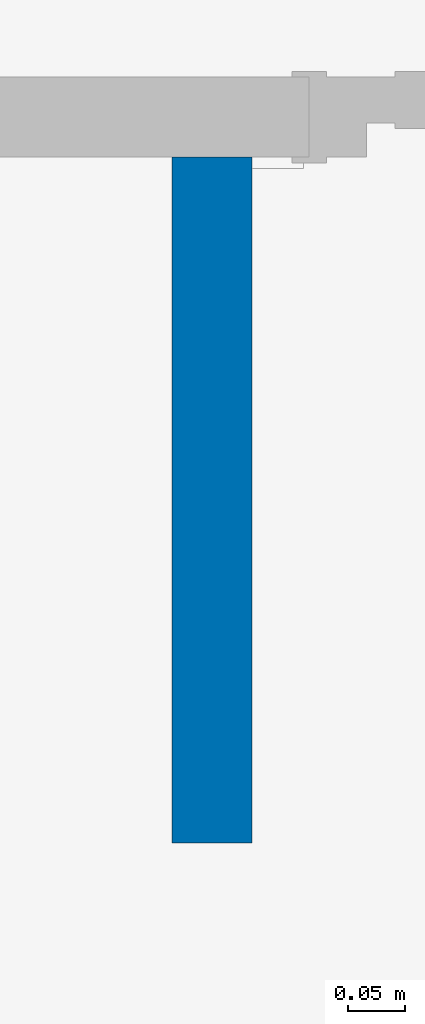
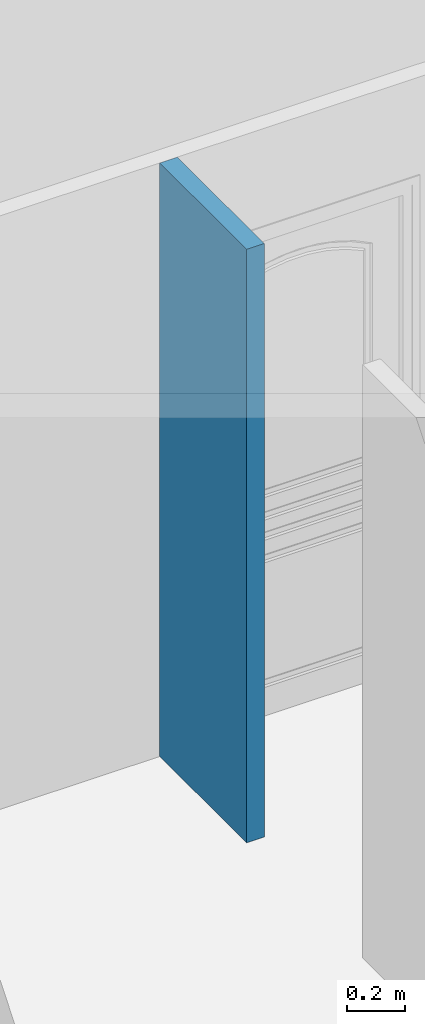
# One storey, part 4 of 23: 1 wall.
"""IFC2X3 building model written with IfcOpenShell, lengths in metres."""

from ifc_helpers import new_model, entity, si_unit, converted_unit, derived_unit, direction, frame, frame_2d, origin, place, context, subcontext, project, spatial, rectangle, extrude, material, layer, layer_set, layer_usage, type_object, element, save


model = new_model("IFC2X3")

# Units and contexts
model_context = context("Model", 3, precision=1e-05, world=origin(), true_north=direction((6.12303176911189e-17, 1.0)))
body_context = subcontext(model_context, "Body", "Model", "MODEL_VIEW")
ifc_project = project(units=[si_unit("LENGTHUNIT", "METRE"), si_unit("AREAUNIT", "SQUARE_METRE"), si_unit("VOLUMEUNIT", "CUBIC_METRE"), converted_unit("PLANEANGLEUNIT", "DEGREE", entity("IfcRatioMeasure", 0.0174532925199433), si_unit("PLANEANGLEUNIT", "RADIAN"), dimensions=[0, 0, 0, 0, 0, 0, 0]), si_unit("MASSUNIT", "GRAM", prefix="KILO"), derived_unit("MASSDENSITYUNIT", [(si_unit("MASSUNIT", "GRAM", prefix="KILO"), 1), (si_unit("LENGTHUNIT", "METRE"), -3)]), si_unit("TIMEUNIT", "SECOND"), si_unit("FREQUENCYUNIT", "HERTZ"), si_unit("THERMODYNAMICTEMPERATUREUNIT", "DEGREE_CELSIUS"), derived_unit("THERMALTRANSMITTANCEUNIT", [(si_unit("MASSUNIT", "GRAM", prefix="KILO"), 1), (si_unit("THERMODYNAMICTEMPERATUREUNIT", "KELVIN"), -1), (si_unit("TIMEUNIT", "SECOND"), -3)]), derived_unit("VOLUMETRICFLOWRATEUNIT", [(si_unit("LENGTHUNIT", "METRE"), 3), (si_unit("TIMEUNIT", "SECOND"), -1)]), si_unit("ELECTRICCURRENTUNIT", "AMPERE"), si_unit("ELECTRICVOLTAGEUNIT", "VOLT"), si_unit("POWERUNIT", "WATT"), si_unit("FORCEUNIT", "NEWTON", prefix="KILO"), si_unit("ILLUMINANCEUNIT", "LUX"), si_unit("LUMINOUSFLUXUNIT", "LUMEN"), si_unit("LUMINOUSINTENSITYUNIT", "CANDELA"), derived_unit("USERDEFINED", [(si_unit("MASSUNIT", "GRAM", prefix="KILO"), -1), (si_unit("LENGTHUNIT", "METRE"), -2), (si_unit("TIMEUNIT", "SECOND"), 3), (si_unit("LUMINOUSFLUXUNIT", "LUMEN"), 1)]), derived_unit("LINEARVELOCITYUNIT", [(si_unit("LENGTHUNIT", "METRE"), 1), (si_unit("TIMEUNIT", "SECOND"), -1)]), si_unit("PRESSUREUNIT", "PASCAL"), derived_unit("USERDEFINED", [(si_unit("LENGTHUNIT", "METRE"), -2), (si_unit("MASSUNIT", "GRAM", prefix="KILO"), 1), (si_unit("TIMEUNIT", "SECOND"), -2)])], contexts=[model_context])

# Site, building, storey
site_placement = place(None, origin())
site = spatial("IfcSite", under=ifc_project, at=site_placement, Name="Default", CompositionType="ELEMENT")
building_placement = place(site_placement, origin())
building = spatial("IfcBuilding", under=site, at=building_placement, CompositionType="ELEMENT")
storey_placement = place(building_placement, origin())
storey = spatial("IfcBuildingStorey", under=building, at=storey_placement, Name="2 - Rez de Chaussée", CompositionType="ELEMENT", Elevation=-1.94916083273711e-14)

# Wall
ifc_material = material(Name="Mur par défaut")
ifc_layer = layer(ifc_material, 0.07)
ifc_layer_set = layer_set([ifc_layer], Name="Mur de base:Cloison distributive Placostil® 72/48 - 1x Placoplatre® BA 13 avec M 48 - EI30 - 33dB - max 3,45m")
ifc_layer_usage = layer_usage(ifc_layer_set, "AXIS2", "NEGATIVE", 0.035)
wall_type = type_object("IfcWallType", Name="Mur de base:Cloison distributive Placostil® 72/48 - 1x Placoplatre® BA 13 avec M 48 - EI30 - 33dB - max 3,45m", PredefinedType="STANDARD", material=ifc_layer_set)
wall_placement = place(storey_placement, frame((-7.76122246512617, -2.83194499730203, 0.0), z_axis=(0.0, 0.0, 1.0), x_axis=(0.0, -1.0, 0.0)))
element("IfcWallStandardCase", 1, at=wall_placement, inside=storey, type_object=wall_type, material=ifc_layer_usage, Name="Mur de base:Cloison distributive Placostil® 72/48 - 1x Placoplatre® BA 13 avec M 48 - EI30 - 33dB - max 3,45m", ObjectType="Mur de base:Cloison distributive Placostil® 72/48 - 1x Placoplatre® BA 13 avec M 48 - EI30 - 33dB - max 3,45m", context=body_context, shape_type="SweptSolid", body=[
    extrude(rectangle(XDim=0.6, YDim=0.0699999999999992, at=frame_2d((0.3, -4.85722573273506e-17), x_axis=(-1.0, 0.0))), origin(), (0.0, 0.0, 1.0), 2.50000000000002),
])

save(model, "model.ifc")
